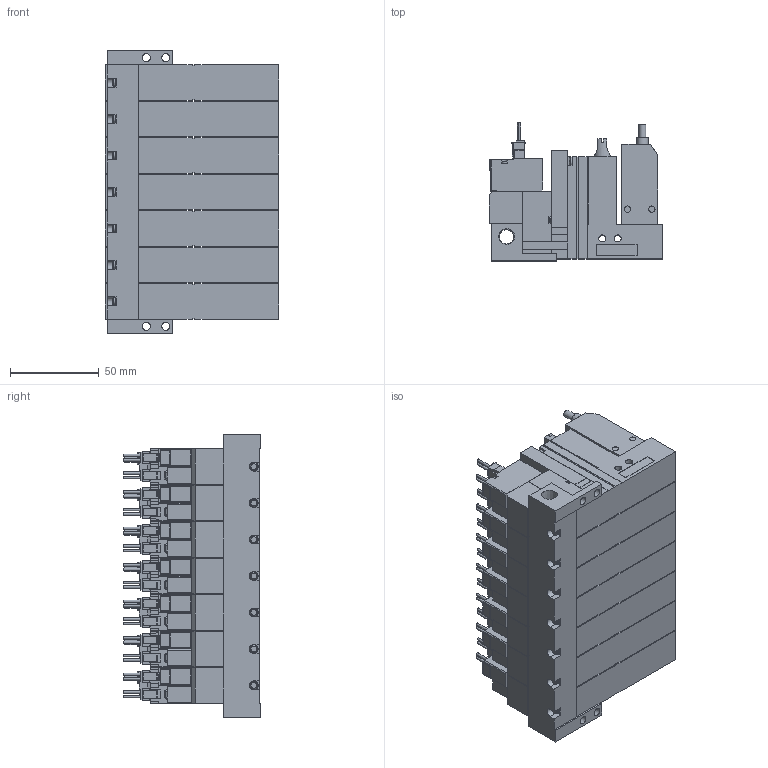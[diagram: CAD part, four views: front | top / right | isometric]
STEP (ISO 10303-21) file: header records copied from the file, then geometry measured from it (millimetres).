
FILE_DESCRIPTION(('STEP AP203'),'1');
FILE_NAME('ABS_ABPLC5ALR707.stp','2025-02-25T02:18:16',(' '),(' '),'Spatial InterOp 3D',' ',' ');
FILE_SCHEMA(('CONFIG_CONTROL_DESIGN'));
Length unit declared in the file: millimetre
Products named in the file (5): BMC22M※※※※ABS_ABPLC5ALR707; Solenoid valve A; Pressure sensor ABSLC; Unit LC; Base MR70R
Assembly tree (22 placements, depth 2):
  BMC22M※※※※ABS_ABPLC5ALR707
    Solenoid valve A  x7
    Pressure sensor ABSLC  x7
    Unit LC  x7
    Base MR70R
Bounding box: 97.6 x 77.45 x 159 mm (x, y, z)
Volume: 716238.1 mm3; surface area: 186823.8 mm2
Topology: 22 solids, 22 shells, 2898 faces, 7766 edges, 5094 vertices
Faces by surface type: plane 2464, cylinder 341, cone 51, torus 42
Full cylindrical faces by diameter (mm): 1.4 x28, 2.5 x7, 3 x28, 3.5 x42, 3.6 x7, 4 x21, 4.134 x7, 4.5 x4, 5.2 x7, 6 x7, 6.5 x7, 6.6 x7, 8.279 x1
Entity records: 16327 total; most frequent: CARTESIAN_POINT 3165, DIRECTION 2602, ORIENTED_EDGE 2530, EDGE_CURVE 1265, LINE 1016, VECTOR 1016, VERTEX_POINT 885, AXIS2_PLACEMENT_3D 793
